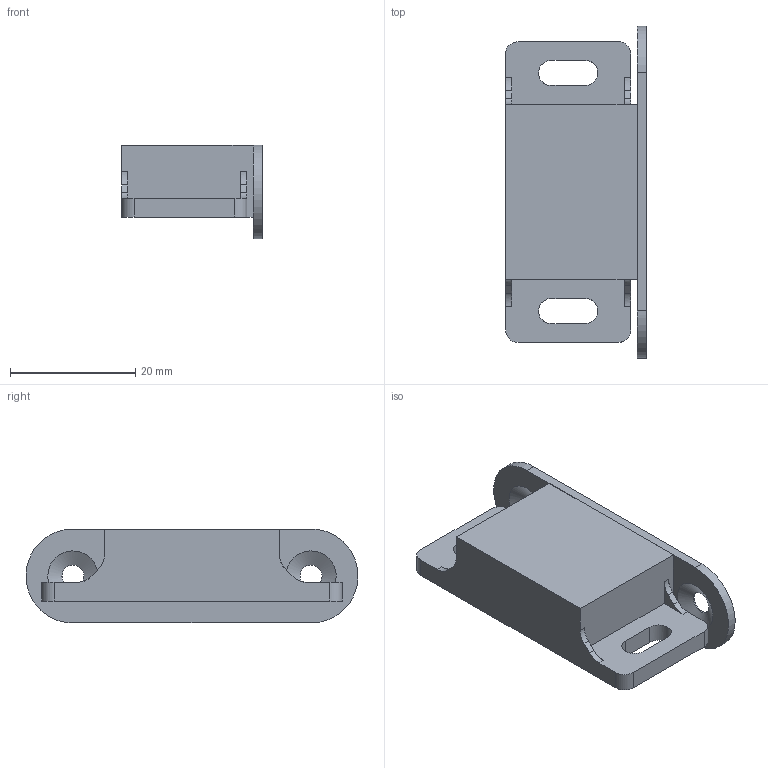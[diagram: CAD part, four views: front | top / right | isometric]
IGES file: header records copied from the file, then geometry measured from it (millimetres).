
Global section: file name: DR_B-MP38; native system: Autodesk Inventor 2015; preprocessor: unknown; author: Administrator; date: 20180305.112238; units: millimetre
Bounding box: 22.5 x 52.99 x 15 mm (x, y, z)
Volume: 8809.9 mm3; surface area: 4896.9 mm2
Topology: 2 solids, 2 shells, 50 faces, 140 edges, 94 vertices
Faces by surface type: bspline 50
